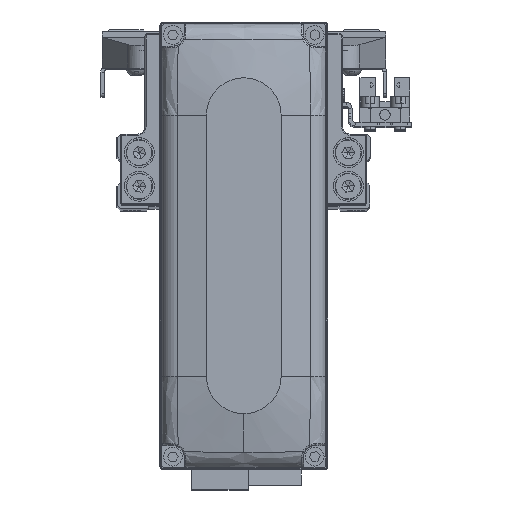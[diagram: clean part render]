
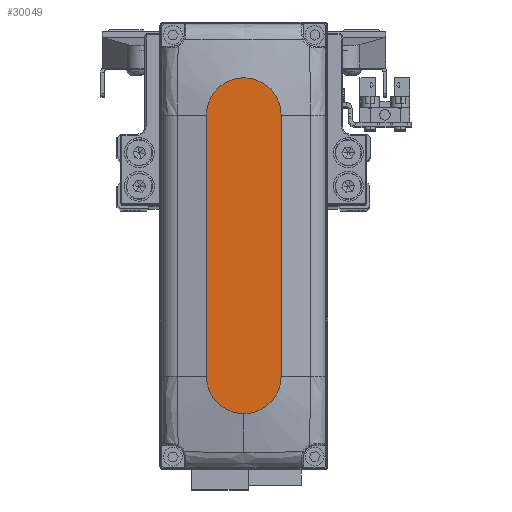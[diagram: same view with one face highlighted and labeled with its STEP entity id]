
A CAD part, top view. The second image highlights one B-rep face of the part: STEP entity #30049.
In plain terms, the highlighted planar face has unit normal (0, 0, 1).
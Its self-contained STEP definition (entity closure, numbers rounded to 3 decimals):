
#810 = DIRECTION ( 'NONE',  ( 0., 0., 1. ) ) ;
#815 = LINE ( 'NONE', #14141, #7847 ) ;
#1005 = VERTEX_POINT ( 'NONE', #28783 ) ;
#1139 = VERTEX_POINT ( 'NONE', #9966 ) ;
#1321 = CIRCLE ( 'NONE', #25741, 10. ) ;
#1776 = LINE ( 'NONE', #15092, #10715 ) ;
#4080 = FACE_OUTER_BOUND ( 'NONE', #29650, .T. ) ;
#7351 = DIRECTION ( 'NONE',  ( 1., 0., 0. ) ) ;
#7847 = VECTOR ( 'NONE', #27482, 1000. ) ;
#9330 = CARTESIAN_POINT ( 'NONE',  ( 35., 0., 28. ) ) ;
#9966 = CARTESIAN_POINT ( 'NONE',  ( -35., 10., 28. ) ) ;
#10715 = VECTOR ( 'NONE', #28419, 1000. ) ;
#11641 = CARTESIAN_POINT ( 'NONE',  ( -35., 0., 28. ) ) ;
#14134 = DIRECTION ( 'NONE',  ( 1., 0., 0. ) ) ;
#14141 = CARTESIAN_POINT ( 'NONE',  ( -35., -10., 28. ) ) ;
#14261 = VERTEX_POINT ( 'NONE', #27559 ) ;
#15092 = CARTESIAN_POINT ( 'NONE',  ( -35., 10., 28. ) ) ;
#15669 = EDGE_CURVE ( 'NONE', #19637, #1139, #1776, .T. ) ;
#16187 = CARTESIAN_POINT ( 'NONE',  ( 35., 10., 28. ) ) ;
#17405 = PLANE ( 'NONE',  #30826 ) ;
#19185 = ORIENTED_EDGE ( 'NONE', *, *, #34955, .T. ) ;
#19637 = VERTEX_POINT ( 'NONE', #16187 ) ;
#21999 = EDGE_CURVE ( 'NONE', #1139, #14261, #41357, .T. ) ;
#22540 = AXIS2_PLACEMENT_3D ( 'NONE', #11641, #24984, #38307 ) ;
#22666 = DIRECTION ( 'NONE',  ( 0., 0., 1. ) ) ;
#23655 = ORIENTED_EDGE ( 'NONE', *, *, #21999, .T. ) ;
#23979 = CARTESIAN_POINT ( 'NONE',  ( 35., 0., 28. ) ) ;
#24250 = AXIS2_PLACEMENT_3D ( 'NONE', #9330, #22666, #35992 ) ;
#24984 = DIRECTION ( 'NONE',  ( 0., 0., 1. ) ) ;
#25741 = AXIS2_PLACEMENT_3D ( 'NONE', #23979, #37302, #7351 ) ;
#26162 = EDGE_CURVE ( 'NONE', #14261, #38592, #815, .T. ) ;
#27482 = DIRECTION ( 'NONE',  ( 1., 0., 0. ) ) ;
#27559 = CARTESIAN_POINT ( 'NONE',  ( -35., -10., 28. ) ) ;
#28419 = DIRECTION ( 'NONE',  ( -1., 0., 0. ) ) ;
#28783 = CARTESIAN_POINT ( 'NONE',  ( 45., 0., 28. ) ) ;
#29650 = EDGE_LOOP ( 'NONE', ( #39669, #23655, #32353, #35827, #19185 ) ) ;
#30049 = ADVANCED_FACE ( 'NONE', ( #4080 ), #17405, .T. ) ;
#30750 = CARTESIAN_POINT ( 'NONE',  ( 0., 0., 28. ) ) ;
#30826 = AXIS2_PLACEMENT_3D ( 'NONE', #30750, #810, #14134 ) ;
#30919 = CARTESIAN_POINT ( 'NONE',  ( 35., -10., 28. ) ) ;
#32353 = ORIENTED_EDGE ( 'NONE', *, *, #26162, .T. ) ;
#34955 = EDGE_CURVE ( 'NONE', #1005, #19637, #43084, .T. ) ;
#35827 = ORIENTED_EDGE ( 'NONE', *, *, #38076, .T. ) ;
#35992 = DIRECTION ( 'NONE',  ( 1., 0., 0. ) ) ;
#37302 = DIRECTION ( 'NONE',  ( 0., 0., 1. ) ) ;
#38076 = EDGE_CURVE ( 'NONE', #38592, #1005, #1321, .T. ) ;
#38307 = DIRECTION ( 'NONE',  ( 1., 0., 0. ) ) ;
#38592 = VERTEX_POINT ( 'NONE', #30919 ) ;
#39669 = ORIENTED_EDGE ( 'NONE', *, *, #15669, .T. ) ;
#41357 = CIRCLE ( 'NONE', #22540, 10. ) ;
#43084 = CIRCLE ( 'NONE', #24250, 10. ) ;
